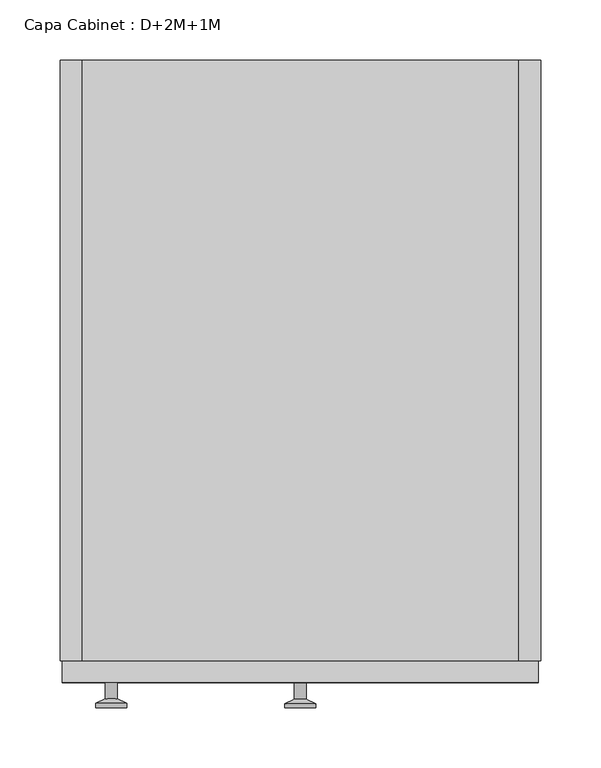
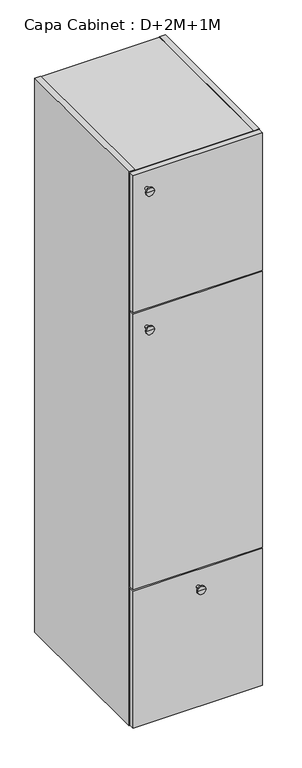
"""IFC4 building model written with IfcOpenShell, lengths in millimetres: furniture geometry, Capa Cabinet : D+2M+1M."""

from ifc_helpers import new_model, si_unit, frame, origin, place, context, project, spatial, polyline, circle_curve, outline, extrude, faceted_brep, source, transform, mapped, element, save
from ifc_brep_helpers import plane_surface, cylinder_surface, revolved_surface, advanced_brep


def capa_cabinet_d_2m_1m_10d078b1(model_context):
    return source(origin(), model_context, "Body", "SolidModel", [
        extrude(outline(polyline([(182.0, 0.0), (-182.0, 0.0), (-182.0, 490.0), (182.0, 490.0), (182.0, 0.0)])), frame((0.0, 0.0, 1337.0), z_axis=(0.0, 0.0, 1.0), x_axis=(1.0, 0.0, 0.0)), (0.0, 0.0, 1.0), 14.0),
        extrude(outline(polyline([(182.0, 0.0), (-182.0, 0.0), (-182.0, 490.0), (182.0, 490.0), (182.0, 0.0)])), frame((0.0, 0.0, 889.0), z_axis=(0.0, 0.0, 1.0), x_axis=(1.0, 0.0, 0.0)), (0.0, 0.0, 1.0), 14.0),
        extrude(outline(polyline([(182.0, 0.0), (-182.0, 0.0), (-182.0, 490.0), (182.0, 490.0), (182.0, 0.0)])), frame((0.0, 0.0, 441.0), z_axis=(0.0, 0.0, 1.0), x_axis=(1.0, 0.0, 0.0)), (0.0, 0.0, 1.0), 14.0),
        faceted_brep([(-182.0, 500.0, 1792.0), (-182.0, 500.0, 1791.0), (182.0, 500.0, 1791.0), (182.0, 500.0, 1792.0), (200.0, 500.0, 1792.0), (200.0, 500.0, 0.0), (182.0, 500.0, 0.0), (182.0, 500.0, 1.0), (-182.0, 500.0, 1.0), (-182.0, 500.0, 0.0), (-200.0, 500.0, 0.0), (-200.0, 500.0, 1792.0), (182.0, 490.0, 19.0), (182.0, 490.0, 1773.0), (-182.0, 490.0, 1773.0), (-182.0, 490.0, 19.0), (-182.0, 0.0, 1792.0), (-200.0, 0.0, 1792.0), (-200.0, 0.0, 0.0), (-182.0, 0.0, 0.0), (-182.0, 0.0, 1.0), (182.0, 0.0, 1.0), (182.0, 0.0, 0.0), (200.0, 0.0, 0.0), (200.0, 0.0, 1792.0), (182.0, 0.0, 1792.0), (182.0, 0.0, 1791.0), (-182.0, 0.0, 1791.0), (182.0, 0.0, 1773.0), (182.0, 0.0, 19.0), (-182.0, 0.0, 19.0), (-182.0, 0.0, 1773.0)], [[[0, 1, 2, 3, 4, 5, 6, 7, 8, 9, 10, 11]], [[12, 13, 14, 15]], [[16, 17, 18, 19, 20, 21, 22, 23, 24, 25, 26, 27], [28, 29, 30, 31]], [[17, 16, 0, 11]], [[18, 17, 11, 10]], [[23, 22, 6, 5]], [[24, 23, 5, 4]], [[19, 18, 10, 9]], [[20, 19, 9, 8]], [[21, 20, 8, 7]], [[22, 21, 7, 6]], [[25, 24, 4, 3]], [[26, 25, 3, 2]], [[27, 26, 2, 1]], [[16, 27, 1, 0]], [[29, 28, 13, 12]], [[30, 29, 12, 15]], [[31, 30, 15, 14]], [[28, 31, 14, 13]]]),
        extrude(outline(polyline([(198.0, -18.0), (-198.0, -18.0), (-198.0, 0.0), (198.0, 0.0), (198.0, -18.0)])), frame((0.0, 0.0, 2.0), z_axis=(0.0, 0.0, 1.0), x_axis=(1.0, 0.0, 0.0)), (0.0, 0.0, 1.0), 444.0),
        advanced_brep(
        [(0.0, -18.0, 392.0), (5.0, -18.0, 392.0), (-5.0, -18.0, 392.0), (-13.0, -38.997134, 392.0), (13.0, -38.997134, 392.0), (0.0, -38.997134, 392.0), (-13.0, -35.5419417, 392.0), (13.0, -35.5419417, 392.0), (-5.0, -31.8114804, 392.0), (5.0, -31.8114804, 392.0)],
        [
            (0, 1),
            (1, 2, circle_curve(frame((0.0, -18.0, 392.0), z_axis=(0.0, 1.0, 0.0), x_axis=(1.0, 0.0, 0.0)), 5.0)),
            (2, 0),
            (2, 1, circle_curve(frame((0.0, -18.0, 392.0), z_axis=(0.0, 1.0, 0.0), x_axis=(1.0, 0.0, 0.0)), 5.0)),
            (3, 4, circle_curve(frame((0.0, -38.997134, 392.0), z_axis=(0.0, -1.0, 0.0), x_axis=(1.0, 0.0, 0.0)), 13.0)),
            (4, 5),
            (5, 3),
            (4, 3, circle_curve(frame((0.0, -38.997134, 392.0), z_axis=(0.0, -1.0, 0.0), x_axis=(1.0, 0.0, 0.0)), 13.0)),
            (6, 7, circle_curve(frame((0.0, -35.5419417, 392.0), z_axis=(0.0, -1.0, 0.0), x_axis=(1.0, 0.0, 0.0)), 13.0)),
            (7, 4),
            (3, 6),
            (7, 6, circle_curve(frame((0.0, -35.5419417, 392.0), z_axis=(0.0, -1.0, 0.0), x_axis=(1.0, 0.0, 0.0)), 13.0)),
            (8, 9, circle_curve(frame((0.0, -31.8114804, 392.0), z_axis=(0.0, -1.0, 0.0), x_axis=(1.0, 0.0, 0.0)), 5.0)),
            (9, 7),
            (6, 8),
            (9, 8, circle_curve(frame((0.0, -31.8114804, 392.0), z_axis=(0.0, -1.0, 0.0), x_axis=(1.0, 0.0, 0.0)), 5.0)),
            (1, 9),
            (8, 2),
        ],
        [
            plane_surface(frame((0.0, -18.0, 392.0), z_axis=(0.0, 1.0, 0.0), x_axis=(1.0, 0.0, 0.0))),
            plane_surface(frame((0.0, -38.997134, 392.0), z_axis=(0.0, -1.0, 0.0), x_axis=(1.0, 0.0, 0.0))),
            cylinder_surface(frame((0.0, -38.997134, 392.0), z_axis=(0.0, 1.0, 0.0), x_axis=(1.0, 0.0, 0.0)), 13.0),
            revolved_surface(polyline([(13.0, -35.5419417, 392.0), (5.0, -31.8114804, 392.0)]), (0.0, -38.997134, 392.0), (0.0, 1.0, 0.0)),
            cylinder_surface(frame((0.0, -38.997134, 392.0), z_axis=(0.0, 1.0, 0.0), x_axis=(1.0, 0.0, 0.0)), 5.0),
        ],
        [
            (0, [[1, 2, 3]]),
            (0, [[-3, 4, -1]]),
            (1, [[5, 6, 7]]),
            (1, [[8, -7, -6]]),
            (2, [[9, 10, -5, 11]]),
            (2, [[12, -11, -8, -10]]),
            (3, [[13, 14, -9, 15]]),
            (3, [[16, -15, -12, -14]]),
            (4, [[-2, 17, -13, 18]]),
            (4, [[-4, -18, -16, -17]]),
        ],
    ),
        extrude(outline(polyline([(198.0, -18.0), (-198.0, -18.0), (-198.0, 0.0), (198.0, 0.0), (198.0, -18.0)])), frame((0.0, 0.0, 1346.0), z_axis=(0.0, 0.0, 1.0), x_axis=(1.0, 0.0, 0.0)), (0.0, 0.0, 1.0), 444.0),
        advanced_brep(
        [(-157.2922597, -18.0, 1736.0), (-152.2922597, -18.0, 1736.0), (-162.2922597, -18.0, 1736.0), (-170.2922597, -38.997134, 1736.0), (-144.2922597, -38.997134, 1736.0), (-157.2922597, -38.997134, 1736.0), (-170.2922597, -35.5419417, 1736.0), (-144.2922597, -35.5419417, 1736.0), (-162.2922597, -31.8114804, 1736.0), (-152.2922597, -31.8114804, 1736.0)],
        [
            (0, 1),
            (1, 2, circle_curve(frame((-157.2922597, -18.0, 1736.0), z_axis=(0.0, 1.0, 0.0), x_axis=(1.0, 0.0, 0.0)), 5.0)),
            (2, 0),
            (2, 1, circle_curve(frame((-157.2922597, -18.0, 1736.0), z_axis=(0.0, 1.0, 0.0), x_axis=(1.0, 0.0, 0.0)), 5.0)),
            (3, 4, circle_curve(frame((-157.2922597, -38.997134, 1736.0), z_axis=(0.0, -1.0, 0.0), x_axis=(1.0, 0.0, 0.0)), 13.0)),
            (4, 5),
            (5, 3),
            (4, 3, circle_curve(frame((-157.2922597, -38.997134, 1736.0), z_axis=(0.0, -1.0, 0.0), x_axis=(1.0, 0.0, 0.0)), 13.0)),
            (6, 7, circle_curve(frame((-157.2922597, -35.5419417, 1736.0), z_axis=(0.0, -1.0, 0.0), x_axis=(1.0, 0.0, 0.0)), 13.0)),
            (7, 4),
            (3, 6),
            (7, 6, circle_curve(frame((-157.2922597, -35.5419417, 1736.0), z_axis=(0.0, -1.0, 0.0), x_axis=(1.0, 0.0, 0.0)), 13.0)),
            (8, 9, circle_curve(frame((-157.2922597, -31.8114804, 1736.0), z_axis=(0.0, -1.0, 0.0), x_axis=(1.0, 0.0, 0.0)), 5.0)),
            (9, 7),
            (6, 8),
            (9, 8, circle_curve(frame((-157.2922597, -31.8114804, 1736.0), z_axis=(0.0, -1.0, 0.0), x_axis=(1.0, 0.0, 0.0)), 5.0)),
            (1, 9),
            (8, 2),
        ],
        [
            plane_surface(frame((-157.2922597, -18.0, 1736.0), z_axis=(0.0, 1.0, 0.0), x_axis=(1.0, 0.0, 0.0))),
            plane_surface(frame((-157.2922597, -38.997134, 1736.0), z_axis=(0.0, -1.0, 0.0), x_axis=(1.0, 0.0, 0.0))),
            cylinder_surface(frame((-157.2922597, -38.997134, 1736.0), z_axis=(0.0, 1.0, 0.0), x_axis=(1.0, 0.0, 0.0)), 13.0),
            revolved_surface(polyline([(-144.2922597, -35.5419417, 1736.0), (-152.2922597, -31.8114804, 1736.0)]), (-157.2922597, -38.997134, 1736.0), (0.0, 1.0, 0.0)),
            cylinder_surface(frame((-157.2922597, -38.997134, 1736.0), z_axis=(0.0, 1.0, 0.0), x_axis=(1.0, 0.0, 0.0)), 5.0),
        ],
        [
            (0, [[1, 2, 3]]),
            (0, [[-3, 4, -1]]),
            (1, [[5, 6, 7]]),
            (1, [[8, -7, -6]]),
            (2, [[9, 10, -5, 11]]),
            (2, [[12, -11, -8, -10]]),
            (3, [[13, 14, -9, 15]]),
            (3, [[16, -15, -12, -14]]),
            (4, [[-2, 17, -13, 18]]),
            (4, [[-4, -18, -16, -17]]),
        ],
    ),
        extrude(outline(polyline([(198.0, -18.0), (-198.0, -18.0), (-198.0, 0.0), (198.0, 0.0), (198.0, -18.0)])), frame((0.0, 0.0, 450.0), z_axis=(0.0, 0.0, 1.0), x_axis=(1.0, 0.0, 0.0)), (0.0, 0.0, 1.0), 892.0),
        advanced_brep(
        [(-157.2922597, -18.0, 1288.0), (-152.2922597, -18.0, 1288.0), (-162.2922597, -18.0, 1288.0), (-170.2922597, -38.997134, 1288.0), (-144.2922597, -38.997134, 1288.0), (-157.2922597, -38.997134, 1288.0), (-170.2922597, -35.5419417, 1288.0), (-144.2922597, -35.5419417, 1288.0), (-162.2922597, -31.8114804, 1288.0), (-152.2922597, -31.8114804, 1288.0)],
        [
            (0, 1),
            (1, 2, circle_curve(frame((-157.2922597, -18.0, 1288.0), z_axis=(0.0, 1.0, 0.0), x_axis=(1.0, 0.0, 0.0)), 5.0)),
            (2, 0),
            (2, 1, circle_curve(frame((-157.2922597, -18.0, 1288.0), z_axis=(0.0, 1.0, 0.0), x_axis=(1.0, 0.0, 0.0)), 5.0)),
            (3, 4, circle_curve(frame((-157.2922597, -38.997134, 1288.0), z_axis=(0.0, -1.0, 0.0), x_axis=(1.0, 0.0, 0.0)), 13.0)),
            (4, 5),
            (5, 3),
            (4, 3, circle_curve(frame((-157.2922597, -38.997134, 1288.0), z_axis=(0.0, -1.0, 0.0), x_axis=(1.0, 0.0, 0.0)), 13.0)),
            (6, 7, circle_curve(frame((-157.2922597, -35.5419417, 1288.0), z_axis=(0.0, -1.0, 0.0), x_axis=(1.0, 0.0, 0.0)), 13.0)),
            (7, 4),
            (3, 6),
            (7, 6, circle_curve(frame((-157.2922597, -35.5419417, 1288.0), z_axis=(0.0, -1.0, 0.0), x_axis=(1.0, 0.0, 0.0)), 13.0)),
            (8, 9, circle_curve(frame((-157.2922597, -31.8114804, 1288.0), z_axis=(0.0, -1.0, 0.0), x_axis=(1.0, 0.0, 0.0)), 5.0)),
            (9, 7),
            (6, 8),
            (9, 8, circle_curve(frame((-157.2922597, -31.8114804, 1288.0), z_axis=(0.0, -1.0, 0.0), x_axis=(1.0, 0.0, 0.0)), 5.0)),
            (1, 9),
            (8, 2),
        ],
        [
            plane_surface(frame((-157.2922597, -18.0, 1288.0), z_axis=(0.0, 1.0, 0.0), x_axis=(1.0, 0.0, 0.0))),
            plane_surface(frame((-157.2922597, -38.997134, 1288.0), z_axis=(0.0, -1.0, 0.0), x_axis=(1.0, 0.0, 0.0))),
            cylinder_surface(frame((-157.2922597, -38.997134, 1288.0), z_axis=(0.0, 1.0, 0.0), x_axis=(1.0, 0.0, 0.0)), 13.0),
            revolved_surface(polyline([(-144.2922597, -35.5419417, 1288.0), (-152.2922597, -31.8114804, 1288.0)]), (-157.2922597, -38.997134, 1288.0), (0.0, 1.0, 0.0)),
            cylinder_surface(frame((-157.2922597, -38.997134, 1288.0), z_axis=(0.0, 1.0, 0.0), x_axis=(1.0, 0.0, 0.0)), 5.0),
        ],
        [
            (0, [[1, 2, 3]]),
            (0, [[-3, 4, -1]]),
            (1, [[5, 6, 7]]),
            (1, [[8, -7, -6]]),
            (2, [[9, 10, -5, 11]]),
            (2, [[12, -11, -8, -10]]),
            (3, [[13, 14, -9, 15]]),
            (3, [[16, -15, -12, -14]]),
            (4, [[-2, 17, -13, 18]]),
            (4, [[-4, -18, -16, -17]]),
        ],
    ),
    ])


if __name__ == "__main__":
    model = new_model("IFC4")
    model_context = context("Model", 3, world=origin())
    ifc_project = project(units=[si_unit("LENGTHUNIT", "METRE", prefix="MILLI")], contexts=[model_context])
    site = spatial("IfcSite", under=ifc_project)
    building = spatial("IfcBuilding", under=site)
    placement = place(None, origin())
    capa_cabinet_d_2m_1m_shape = capa_cabinet_d_2m_1m_10d078b1(model_context)
    element("IfcFurniture", 1, ObjectType="Capa Cabinet : D+2M+1M", at=placement, inside=building, context=model_context, shape_type="MappedRepresentation", body=[
        mapped(capa_cabinet_d_2m_1m_shape, transform((0.0, 0.0, 0.0), x_axis=(1.0, 0.0, 0.0), y_axis=(0.0, 1.0, 0.0), z_axis=(0.0, 0.0, 1.0))),
    ])
    save(model, "model.ifc")
